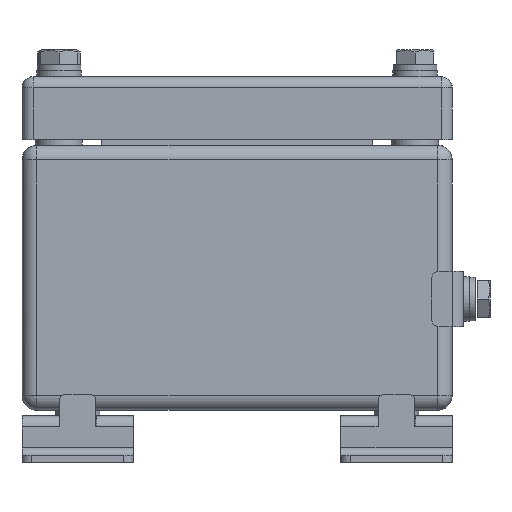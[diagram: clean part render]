
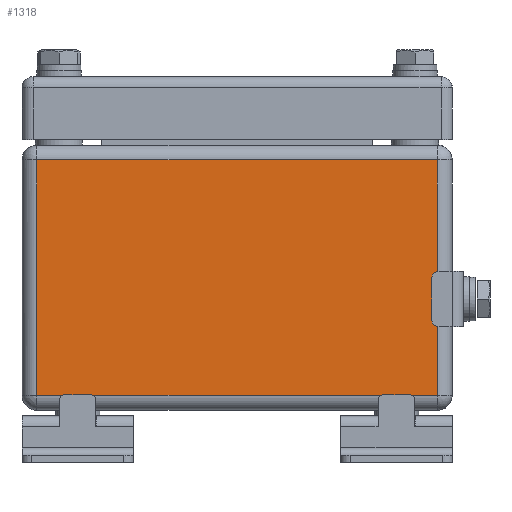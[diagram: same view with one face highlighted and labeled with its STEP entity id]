
A CAD part, front view. The second image highlights one B-rep face of the part: STEP entity #1318.
In plain terms, the highlighted planar face has unit normal (0, -1, 0).
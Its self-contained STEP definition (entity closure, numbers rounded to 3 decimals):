
#771=CARTESIAN_POINT('',(54.0,-88.,67.5));
#772=VERTEX_POINT('',#771);
#865=CARTESIAN_POINT('',(54.0,-88.,4.0));
#866=VERTEX_POINT('',#865);
#921=CARTESIAN_POINT('',(54.0,-88.,67.5));
#922=DIRECTION('',(0.0,0.0,-1.0));
#923=VECTOR('',#922,63.5);
#924=LINE('',#921,#923);
#925=EDGE_CURVE('',#772,#866,#924,.T.);
#953=CARTESIAN_POINT('',(-54.0,-88.,67.5));
#954=VERTEX_POINT('',#953);
#988=CARTESIAN_POINT('',(-54.0,-88.,4.0));
#989=VERTEX_POINT('',#988);
#1020=CARTESIAN_POINT('',(54.0,-88.,4.0));
#1021=DIRECTION('',(-1.0,0.0,0.0));
#1022=VECTOR('',#1021,108.0);
#1023=LINE('',#1020,#1022);
#1024=EDGE_CURVE('',#866,#989,#1023,.T.);
#1042=CARTESIAN_POINT('',(-54.0,-88.,4.0));
#1043=DIRECTION('',(0.0,0.0,1.0));
#1044=VECTOR('',#1043,63.5);
#1045=LINE('',#1042,#1044);
#1046=EDGE_CURVE('',#989,#954,#1045,.T.);
#1079=CARTESIAN_POINT('',(-54.0,-88.,67.5));
#1080=DIRECTION('',(1.0,0.0,0.0));
#1081=VECTOR('',#1080,108.0);
#1082=LINE('',#1079,#1081);
#1083=EDGE_CURVE('',#954,#772,#1082,.T.);
#1307=CARTESIAN_POINT('',(58.,-88.,0.0));
#1308=DIRECTION('',(0.0,-1.0,0.0));
#1309=DIRECTION('',(0.0,0.0,-1.0));
#1310=AXIS2_PLACEMENT_3D('',#1307,#1308,#1309);
#1311=PLANE('',#1310);
#1312=ORIENTED_EDGE('',*,*,#925,.F.);
#1313=ORIENTED_EDGE('',*,*,#1083,.F.);
#1314=ORIENTED_EDGE('',*,*,#1046,.F.);
#1315=ORIENTED_EDGE('',*,*,#1024,.F.);
#1316=EDGE_LOOP('',(#1312,#1313,#1314,#1315));
#1317=FACE_OUTER_BOUND('',#1316,.T.);
#1318=ADVANCED_FACE('',(#1317),#1311,.T.);
